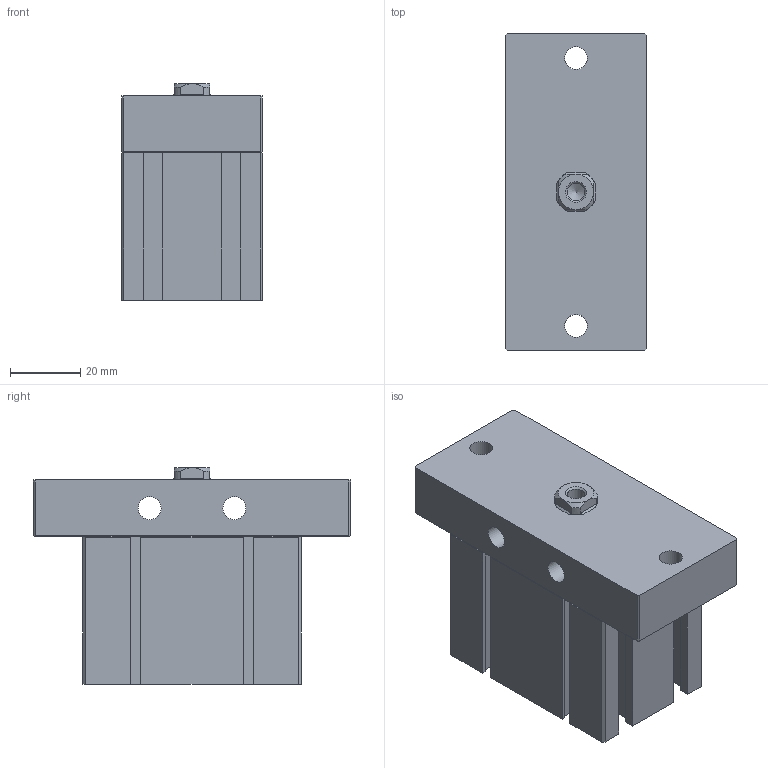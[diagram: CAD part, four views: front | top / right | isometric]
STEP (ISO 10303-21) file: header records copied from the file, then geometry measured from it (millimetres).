
FILE_DESCRIPTION((''),'2;1');
FILE_NAME('J:\3D電子目錄\氣缸\ND\ND\ND32-F\ND32x10-F.stp','2008-03-12T14:53:23',('66-2f-008'),(''),'Autodesk Inventor 11','Autodesk Inventor 11','');
FILE_SCHEMA(('AUTOMOTIVE_DESIGN { 1 0 10303 214 1 1 1 1 }'));
Length unit declared in the file: millimetre
Products named in the file (1): ND32-F
Bounding box: 40 x 90 x 61.5 mm (x, y, z)
Volume: 142964.4 mm3; surface area: 29229.7 mm2
Topology: 2 solids, 2 shells, 145 faces, 371 edges, 239 vertices
Faces by surface type: plane 105, bspline 16, cone 12, cylinder 11, torus 1
Full cylindrical faces by diameter (mm): 2.2 x2, 6.5 x2, 23 x1, 34 x1, 36 x1
Entity records: 4318 total; most frequent: CARTESIAN_POINT 948, ORIENTED_EDGE 674, DIRECTION 650, EDGE_CURVE 337, VECTOR 268, LINE 268, VERTEX_POINT 233, AXIS2_PLACEMENT_3D 191
